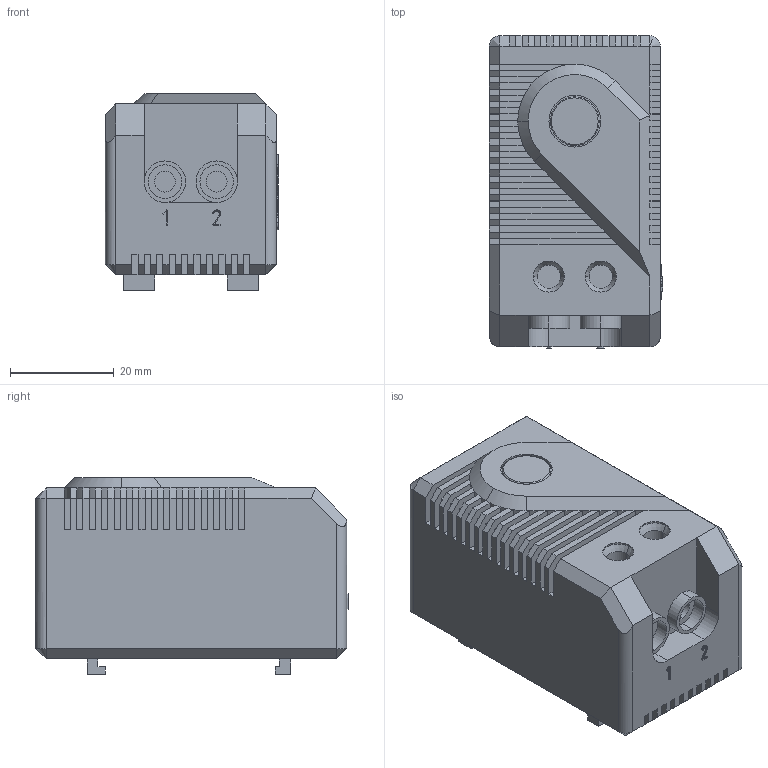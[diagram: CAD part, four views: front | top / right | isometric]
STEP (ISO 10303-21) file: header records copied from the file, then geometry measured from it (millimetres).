
FILE_DESCRIPTION (( 'STEP AP214' ), '1' );
FILE_NAME ('KTR_011_eplan_10_2012.STEP', '2012-11-15T14:14:31', ( 'Nutzer' ), ( '' ), 'SwSTEP 2.0', 'SolidWorks 2012', '' );
FILE_SCHEMA (( 'AUTOMOTIVE_DESIGN' ));
Length unit declared in the file: millimetre
Products named in the file (1): KTR_011_eplan_10_2012
Bounding box: 33.45 x 60.3 x 38 mm (x, y, z)
Volume: 61570.9 mm3; surface area: 13778.6 mm2
Topology: 2 solids, 2 shells, 662 faces, 1827 edges, 1178 vertices
Faces by surface type: plane 538, bspline 71, cylinder 40, cone 11, torus 2
Entity records: 21330 total; most frequent: CARTESIAN_POINT 4922, ORIENTED_EDGE 3642, DIRECTION 2953, EDGE_CURVE 1821, LINE 1581, VECTOR 1581, VERTEX_POINT 1178, AXIS2_PLACEMENT_3D 686
